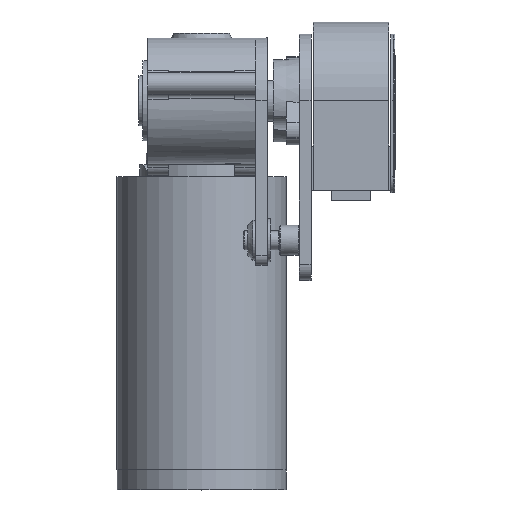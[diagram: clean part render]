
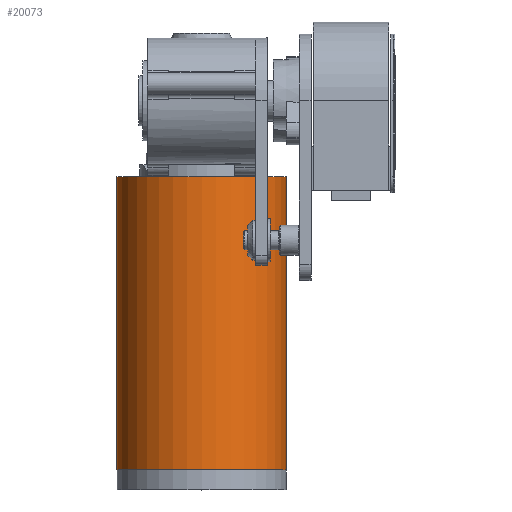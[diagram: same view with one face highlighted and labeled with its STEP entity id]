
A CAD part, top view. The second image highlights one B-rep face of the part: STEP entity #20073.
In plain terms, the highlighted cylindrical face has radius 42.5 mm (diameter 85 mm), a full revolution.
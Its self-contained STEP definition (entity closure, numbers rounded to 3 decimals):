
#10460=CARTESIAN_POINT('',(-141.531,-52.439,-960.425));
#10461=VERTEX_POINT('',#10460);
#10462=CARTESIAN_POINT('',(-141.533,-3.439,-960.425));
#10463=VERTEX_POINT('',#10462);
#10464=CARTESIAN_POINT('',(-141.531,-52.439,-960.425));
#10465=DIRECTION('',(0.,1.,0.));
#10466=VECTOR('',#10465,49.);
#10467=LINE('',#10464,#10466);
#10468=EDGE_CURVE('',#10461,#10463,#10467,.T.);
#10500=CARTESIAN_POINT('',(-145.531,-56.439,-963.625));
#10501=VERTEX_POINT('',#10500);
#10502=CARTESIAN_POINT('',(-145.531,-56.439,-963.625));
#10503=CARTESIAN_POINT('',(-145.004,-56.439,-963.253));
#10504=CARTESIAN_POINT('',(-144.447,-56.33,-962.84));
#10505=CARTESIAN_POINT('',(-143.419,-55.882,-962.04));
#10506=CARTESIAN_POINT('',(-142.947,-55.543,-961.653));
#10507=CARTESIAN_POINT('',(-142.277,-54.806,-961.086));
#10508=CARTESIAN_POINT('',(-142.005,-54.393,-960.848));
#10509=CARTESIAN_POINT('',(-141.632,-53.461,-960.516));
#10510=CARTESIAN_POINT('',(-141.531,-52.941,-960.425));
#10511=CARTESIAN_POINT('',(-141.531,-52.439,-960.425));
#10512=B_SPLINE_CURVE_WITH_KNOTS('',3,(#10502,#10503,#10504,#10505,#10506,#10507,#10508,#10509,#10510,#10511),.UNSPECIFIED.,.F.,.U.,(4,2,2,2,4),(-0.688,-0.495,-0.301,-0.151,0.0),.UNSPECIFIED.);
#10513=EDGE_CURVE('',#10501,#10461,#10512,.T.);
#10539=CARTESIAN_POINT('',(-194.531,-56.441,-963.625));
#10540=VERTEX_POINT('',#10539);
#10541=CARTESIAN_POINT('',(-170.031,-56.44,-928.897));
#10542=DIRECTION('',(0.,-1.,0.0));
#10543=DIRECTION('',(0.0,0.0,1.0));
#10544=AXIS2_PLACEMENT_3D('',#10541,#10542,#10543);
#10545=CIRCLE('',#10544,42.5);
#10546=EDGE_CURVE('',#10540,#10501,#10545,.T.);
#10571=CARTESIAN_POINT('',(-198.531,-52.441,-960.425));
#10572=VERTEX_POINT('',#10571);
#10573=CARTESIAN_POINT('',(-198.531,-52.441,-960.425));
#10574=CARTESIAN_POINT('',(-198.531,-52.943,-960.425));
#10575=CARTESIAN_POINT('',(-198.431,-53.464,-960.516));
#10576=CARTESIAN_POINT('',(-198.057,-54.395,-960.848));
#10577=CARTESIAN_POINT('',(-197.785,-54.808,-961.086));
#10578=CARTESIAN_POINT('',(-197.115,-55.545,-961.653));
#10579=CARTESIAN_POINT('',(-196.643,-55.884,-962.04));
#10580=CARTESIAN_POINT('',(-195.615,-56.332,-962.84));
#10581=CARTESIAN_POINT('',(-195.058,-56.441,-963.253));
#10582=CARTESIAN_POINT('',(-194.531,-56.441,-963.625));
#10583=B_SPLINE_CURVE_WITH_KNOTS('',3,(#10573,#10574,#10575,#10576,#10577,#10578,#10579,#10580,#10581,#10582),.UNSPECIFIED.,.F.,.U.,(4,2,2,2,4),(1.348,1.499,1.649,1.843,2.036),.UNSPECIFIED.);
#10584=EDGE_CURVE('',#10572,#10540,#10583,.T.);
#11396=CARTESIAN_POINT('',(-198.533,-3.441,-960.425));
#11397=VERTEX_POINT('',#11396);
#11398=CARTESIAN_POINT('',(-198.533,-3.441,-960.425));
#11399=DIRECTION('',(0.,-1.,0.));
#11400=VECTOR('',#11399,49.);
#11401=LINE('',#11398,#11400);
#11402=EDGE_CURVE('',#11397,#10572,#11401,.T.);
#11420=CARTESIAN_POINT('',(-194.533,0.559,-963.625));
#11421=VERTEX_POINT('',#11420);
#11422=CARTESIAN_POINT('',(-194.533,0.559,-963.625));
#11423=CARTESIAN_POINT('',(-195.03,0.559,-963.274));
#11424=CARTESIAN_POINT('',(-195.557,0.462,-962.885));
#11425=CARTESIAN_POINT('',(-196.538,0.061,-962.126));
#11426=CARTESIAN_POINT('',(-196.992,-0.243,-961.756));
#11427=CARTESIAN_POINT('',(-197.69,-0.941,-961.17));
#11428=CARTESIAN_POINT('',(-197.995,-1.368,-960.904));
#11429=CARTESIAN_POINT('',(-198.418,-2.348,-960.53));
#11430=CARTESIAN_POINT('',(-198.533,-2.901,-960.425));
#11431=CARTESIAN_POINT('',(-198.533,-3.441,-960.425));
#11432=B_SPLINE_CURVE_WITH_KNOTS('',3,(#11422,#11423,#11424,#11425,#11426,#11427,#11428,#11429,#11430,#11431),.UNSPECIFIED.,.F.,.U.,(4,2,2,2,4),(0.66,0.842,1.024,1.186,1.348),.UNSPECIFIED.);
#11433=EDGE_CURVE('',#11421,#11397,#11432,.T.);
#11451=CARTESIAN_POINT('',(-145.533,0.561,-963.625));
#11452=VERTEX_POINT('',#11451);
#11453=CARTESIAN_POINT('',(-170.033,0.56,-928.897));
#11454=DIRECTION('',(0.,1.,0.0));
#11455=DIRECTION('',(0.0,0.0,1.0));
#11456=AXIS2_PLACEMENT_3D('',#11453,#11454,#11455);
#11457=CIRCLE('',#11456,42.5);
#11458=EDGE_CURVE('',#11452,#11421,#11457,.T.);
#11476=CARTESIAN_POINT('',(-141.533,-3.439,-960.425));
#11477=CARTESIAN_POINT('',(-141.533,-2.899,-960.425));
#11478=CARTESIAN_POINT('',(-141.649,-2.346,-960.53));
#11479=CARTESIAN_POINT('',(-142.071,-1.366,-960.904));
#11480=CARTESIAN_POINT('',(-142.376,-0.939,-961.17));
#11481=CARTESIAN_POINT('',(-143.074,-0.241,-961.756));
#11482=CARTESIAN_POINT('',(-143.528,0.063,-962.126));
#11483=CARTESIAN_POINT('',(-144.509,0.464,-962.885));
#11484=CARTESIAN_POINT('',(-145.037,0.561,-963.274));
#11485=CARTESIAN_POINT('',(-145.533,0.561,-963.625));
#11486=B_SPLINE_CURVE_WITH_KNOTS('',3,(#11476,#11477,#11478,#11479,#11480,#11481,#11482,#11483,#11484,#11485),.UNSPECIFIED.,.F.,.U.,(4,2,2,2,4),(0.0,0.162,0.324,0.506,0.688),.UNSPECIFIED.);
#11487=EDGE_CURVE('',#10463,#11452,#11486,.T.);
#19984=CARTESIAN_POINT('',(-170.036,83.06,-971.397));
#19985=VERTEX_POINT('',#19984);
#19986=CARTESIAN_POINT('',(-170.036,83.06,-928.897));
#19987=DIRECTION('',(0.,-1.,0.0));
#19988=DIRECTION('',(0.0,0.0,1.0));
#19989=AXIS2_PLACEMENT_3D('',#19986,#19987,#19988);
#19990=CIRCLE('',#19989,42.5);
#19991=EDGE_CURVE('',#19985,#19985,#19990,.T.);
#20037=CARTESIAN_POINT('',(-170.031,-63.94,-886.397));
#20038=VERTEX_POINT('',#20037);
#20039=CARTESIAN_POINT('',(-170.031,-63.94,-928.897));
#20040=DIRECTION('',(0.,1.,0.0));
#20041=DIRECTION('',(0.0,0.0,1.0));
#20042=AXIS2_PLACEMENT_3D('',#20039,#20040,#20041);
#20043=CIRCLE('',#20042,42.5);
#20044=EDGE_CURVE('',#20038,#20038,#20043,.T.);
#20052=CARTESIAN_POINT('',(-170.036,83.06,-928.897));
#20053=DIRECTION('',(0.,-1.,0.));
#20054=DIRECTION('',(0.0,0.0,1.0));
#20055=AXIS2_PLACEMENT_3D('',#20052,#20053,#20054);
#20056=CYLINDRICAL_SURFACE('',#20055,42.5);
#20057=ORIENTED_EDGE('',*,*,#10584,.T.);
#20058=ORIENTED_EDGE('',*,*,#10546,.T.);
#20059=ORIENTED_EDGE('',*,*,#10513,.T.);
#20060=ORIENTED_EDGE('',*,*,#10468,.T.);
#20061=ORIENTED_EDGE('',*,*,#11487,.T.);
#20062=ORIENTED_EDGE('',*,*,#11458,.T.);
#20063=ORIENTED_EDGE('',*,*,#11433,.T.);
#20064=ORIENTED_EDGE('',*,*,#11402,.T.);
#20065=EDGE_LOOP('',(#20057,#20058,#20059,#20060,#20061,#20062,#20063,#20064));
#20066=FACE_OUTER_BOUND('',#20065,.T.);
#20067=ORIENTED_EDGE('',*,*,#20044,.T.);
#20068=EDGE_LOOP('',(#20067));
#20069=FACE_BOUND('',#20068,.T.);
#20070=ORIENTED_EDGE('',*,*,#19991,.T.);
#20071=EDGE_LOOP('',(#20070));
#20072=FACE_BOUND('',#20071,.T.);
#20073=ADVANCED_FACE('',(#20066,#20069,#20072),#20056,.T.);
